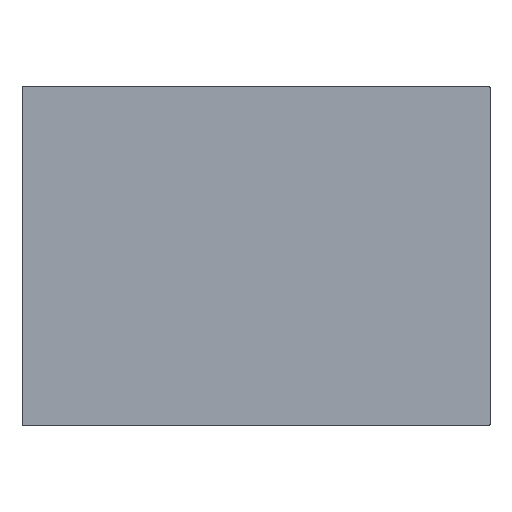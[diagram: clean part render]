
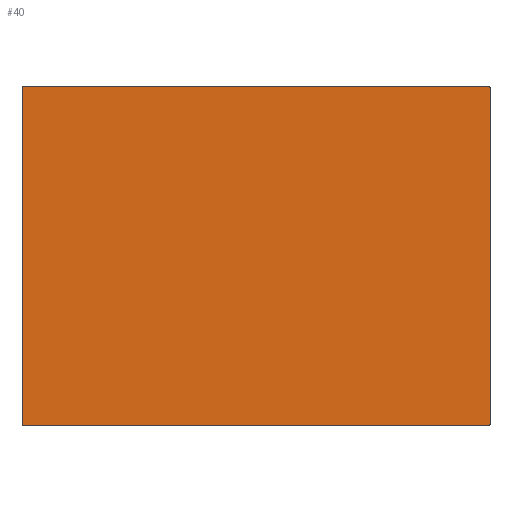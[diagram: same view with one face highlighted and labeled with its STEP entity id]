
A CAD part, top view. The second image highlights one B-rep face of the part: STEP entity #40.
In plain terms, the highlighted planar face has unit normal (0, 0, 1).
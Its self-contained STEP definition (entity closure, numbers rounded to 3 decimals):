
#40=ADVANCED_FACE('',(#60),#353,.T.);
#60=FACE_OUTER_BOUND('',#80,.T.);
#80=EDGE_LOOP('',(#101,#102,#103,#104,#105,#106,#107,#108));
#101=ORIENTED_EDGE('',*,*,#199,.T.);
#102=ORIENTED_EDGE('',*,*,#200,.T.);
#103=ORIENTED_EDGE('',*,*,#201,.T.);
#104=ORIENTED_EDGE('',*,*,#202,.T.);
#105=ORIENTED_EDGE('',*,*,#203,.T.);
#106=ORIENTED_EDGE('',*,*,#204,.T.);
#107=ORIENTED_EDGE('',*,*,#205,.T.);
#108=ORIENTED_EDGE('',*,*,#206,.T.);
#199=EDGE_CURVE('',#313,#314,#271,.T.);
#200=EDGE_CURVE('',#314,#315,#256,.T.);
#201=EDGE_CURVE('',#315,#316,#272,.T.);
#202=EDGE_CURVE('',#316,#317,#257,.T.);
#203=EDGE_CURVE('',#317,#318,#273,.T.);
#204=EDGE_CURVE('',#318,#319,#258,.T.);
#205=EDGE_CURVE('',#319,#320,#274,.T.);
#206=EDGE_CURVE('',#320,#313,#259,.T.);
#256=(
BOUNDED_CURVE()
B_SPLINE_CURVE(2,(#438,#439,#440),.UNSPECIFIED.,.F.,.F.)
B_SPLINE_CURVE_WITH_KNOTS((3,3),(3.142,4.712),
 .UNSPECIFIED.)
CURVE()
GEOMETRIC_REPRESENTATION_ITEM()
RATIONAL_B_SPLINE_CURVE((1.,0.707,1.))
REPRESENTATION_ITEM('')
);
#257=(
BOUNDED_CURVE()
B_SPLINE_CURVE(2,(#443,#444,#445),.UNSPECIFIED.,.F.,.F.)
B_SPLINE_CURVE_WITH_KNOTS((3,3),(1.571,3.142),
 .UNSPECIFIED.)
CURVE()
GEOMETRIC_REPRESENTATION_ITEM()
RATIONAL_B_SPLINE_CURVE((1.,0.707,1.))
REPRESENTATION_ITEM('')
);
#258=(
BOUNDED_CURVE()
B_SPLINE_CURVE(2,(#448,#449,#450),.UNSPECIFIED.,.F.,.F.)
B_SPLINE_CURVE_WITH_KNOTS((3,3),(3.142,4.712),
 .UNSPECIFIED.)
CURVE()
GEOMETRIC_REPRESENTATION_ITEM()
RATIONAL_B_SPLINE_CURVE((1.,0.707,1.))
REPRESENTATION_ITEM('')
);
#259=(
BOUNDED_CURVE()
B_SPLINE_CURVE(2,(#453,#454,#455),.UNSPECIFIED.,.F.,.F.)
B_SPLINE_CURVE_WITH_KNOTS((3,3),(1.571,3.142),
 .UNSPECIFIED.)
CURVE()
GEOMETRIC_REPRESENTATION_ITEM()
RATIONAL_B_SPLINE_CURVE((1.,0.707,1.))
REPRESENTATION_ITEM('')
);
#271=B_SPLINE_CURVE_WITH_KNOTS('',1,(#436,#437),.UNSPECIFIED.,.F.,.F.,(2,
2),(0.,498.),.UNSPECIFIED.);
#272=B_SPLINE_CURVE_WITH_KNOTS('',1,(#441,#442),.UNSPECIFIED.,.F.,.F.,(2,
2),(-688.,0.),.UNSPECIFIED.);
#273=B_SPLINE_CURVE_WITH_KNOTS('',1,(#446,#447),.UNSPECIFIED.,.F.,.F.,(2,
2),(0.,498.),.UNSPECIFIED.);
#274=B_SPLINE_CURVE_WITH_KNOTS('',1,(#451,#452),.UNSPECIFIED.,.F.,.F.,(2,
2),(-688.,0.),.UNSPECIFIED.);
#313=VERTEX_POINT('',#428);
#314=VERTEX_POINT('',#429);
#315=VERTEX_POINT('',#430);
#316=VERTEX_POINT('',#431);
#317=VERTEX_POINT('',#432);
#318=VERTEX_POINT('',#433);
#319=VERTEX_POINT('',#434);
#320=VERTEX_POINT('',#435);
#353=PLANE('',#389);
#389=AXIS2_PLACEMENT_3D('',#427,#408,$);
#408=DIRECTION('',(0.,0.,1.));
#427=CARTESIAN_POINT('',(-414.66,-300.66,0.1));
#428=CARTESIAN_POINT('',(345.5,-249.,0.1));
#429=CARTESIAN_POINT('',(345.5,249.,0.1));
#430=CARTESIAN_POINT('',(344.,250.5,0.1));
#431=CARTESIAN_POINT('',(-344.,250.5,0.1));
#432=CARTESIAN_POINT('',(-345.5,249.,0.1));
#433=CARTESIAN_POINT('',(-345.5,-249.,0.1));
#434=CARTESIAN_POINT('',(-344.,-250.5,0.1));
#435=CARTESIAN_POINT('',(344.,-250.5,0.1));
#436=CARTESIAN_POINT('',(345.5,-249.,0.1));
#437=CARTESIAN_POINT('',(345.5,249.,0.1));
#438=CARTESIAN_POINT('',(345.5,249.,0.1));
#439=CARTESIAN_POINT('',(345.5,250.5,0.1));
#440=CARTESIAN_POINT('',(344.,250.5,0.1));
#441=CARTESIAN_POINT('',(344.,250.5,0.1));
#442=CARTESIAN_POINT('',(-344.,250.5,0.1));
#443=CARTESIAN_POINT('',(-344.,250.5,0.1));
#444=CARTESIAN_POINT('',(-345.5,250.5,0.1));
#445=CARTESIAN_POINT('',(-345.5,249.,0.1));
#446=CARTESIAN_POINT('',(-345.5,249.,0.1));
#447=CARTESIAN_POINT('',(-345.5,-249.,0.1));
#448=CARTESIAN_POINT('',(-345.5,-249.,0.1));
#449=CARTESIAN_POINT('',(-345.5,-250.5,0.1));
#450=CARTESIAN_POINT('',(-344.,-250.5,0.1));
#451=CARTESIAN_POINT('',(-344.,-250.5,0.1));
#452=CARTESIAN_POINT('',(344.,-250.5,0.1));
#453=CARTESIAN_POINT('',(344.,-250.5,0.1));
#454=CARTESIAN_POINT('',(345.5,-250.5,0.1));
#455=CARTESIAN_POINT('',(345.5,-249.,0.1));
